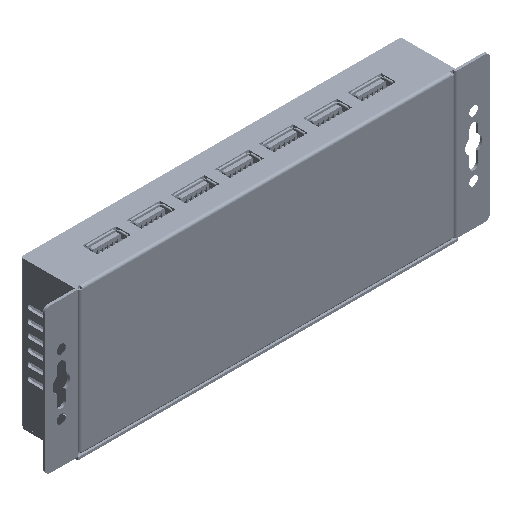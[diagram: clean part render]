
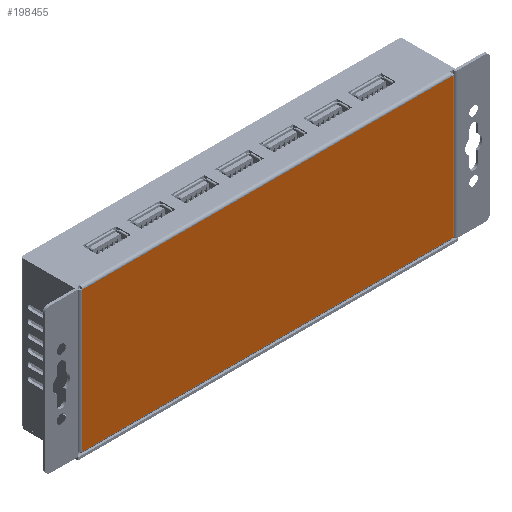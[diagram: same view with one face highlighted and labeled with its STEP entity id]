
A CAD part, isometric view. The second image highlights one B-rep face of the part: STEP entity #198455.
In plain terms, the highlighted planar face has unit normal (0, -1, 0).
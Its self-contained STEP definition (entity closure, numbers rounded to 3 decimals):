
#6127=PLANE('',#211220);
#19032=FACE_OUTER_BOUND('',#29449,.T.);
#29449=EDGE_LOOP('',(#163945,#163946,#163947,#163948));
#49497=LINE('',#313940,#74150);
#49509=LINE('',#313975,#74162);
#49510=LINE('',#313977,#74163);
#49511=LINE('',#313978,#74164);
#74150=VECTOR('',#248413,10.);
#74162=VECTOR('',#248453,10.);
#74163=VECTOR('',#248454,10.);
#74164=VECTOR('',#248455,10.);
#96057=VERTEX_POINT('',#313922);
#96058=VERTEX_POINT('',#313926);
#96069=VERTEX_POINT('',#313974);
#96070=VERTEX_POINT('',#313976);
#120730=EDGE_CURVE('',#96057,#96058,#49497,.T.);
#120748=EDGE_CURVE('',#96058,#96069,#49509,.T.);
#120749=EDGE_CURVE('',#96069,#96070,#49510,.T.);
#120750=EDGE_CURVE('',#96070,#96057,#49511,.T.);
#163945=ORIENTED_EDGE('',*,*,#120730,.T.);
#163946=ORIENTED_EDGE('',*,*,#120748,.T.);
#163947=ORIENTED_EDGE('',*,*,#120749,.T.);
#163948=ORIENTED_EDGE('',*,*,#120750,.T.);
#198455=ADVANCED_FACE('',(#19032),#6127,.T.);
#211220=AXIS2_PLACEMENT_3D('',#313973,#248451,#248452);
#248413=DIRECTION('',(1.,0.,0.));
#248451=DIRECTION('center_axis',(0.,-1.,0.));
#248452=DIRECTION('ref_axis',(1.,0.,0.));
#248453=DIRECTION('',(0.,0.,1.));
#248454=DIRECTION('',(-1.,0.,0.));
#248455=DIRECTION('',(0.,0.,-1.));
#313922=CARTESIAN_POINT('',(-3.8,-5.53,-55.48));
#313926=CARTESIAN_POINT('',(144.98,-5.53,-55.48));
#313940=CARTESIAN_POINT('',(33.395,-5.53,-55.48));
#313973=CARTESIAN_POINT('Origin',(70.59,-5.53,-27.33));
#313974=CARTESIAN_POINT('',(144.98,-5.53,0.82));
#313975=CARTESIAN_POINT('',(144.98,-5.53,-41.91));
#313976=CARTESIAN_POINT('',(-3.8,-5.53,0.82));
#313977=CARTESIAN_POINT('',(32.89,-5.53,0.82));
#313978=CARTESIAN_POINT('',(-3.8,-5.53,-13.255));
